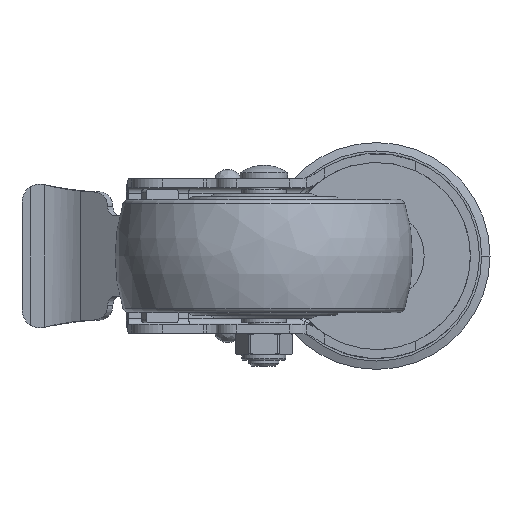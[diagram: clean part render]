
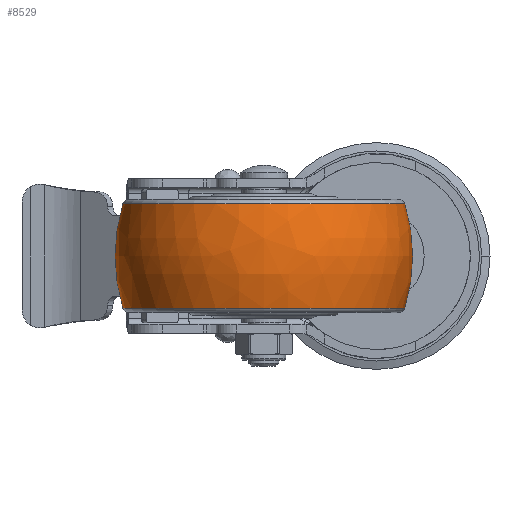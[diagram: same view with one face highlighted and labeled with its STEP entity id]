
A CAD part, front view. The second image highlights one B-rep face of the part: STEP entity #8529.
In plain terms, the highlighted free-form (B-spline) face has degree [3, 3] with [7, 4] control points.
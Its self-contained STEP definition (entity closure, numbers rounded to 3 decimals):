
#7935=CARTESIAN_POINT('',(-24.368,-22.529,0.));
#7936=DIRECTION('',(0.,0.,1.));
#7937=DIRECTION('',(0.293,0.956,0.));
#7938=AXIS2_PLACEMENT_3D('',#7935,#7936,#7937);
#7940=CARTESIAN_POINT('',(-24.368,-2.529,0.));
#7941=DIRECTION('',(0.,0.,-1.));
#7942=DIRECTION('',(0.293,-0.956,0.));
#7943=AXIS2_PLACEMENT_3D('',#7940,#7941,#7942);
#7945=CARTESIAN_POINT('',(-6.782,-12.529,0.));
#7946=DIRECTION('',(-1.,0.,0.));
#7947=DIRECTION('',(0.,1.,0.));
#7948=AXIS2_PLACEMENT_3D('',#7945,#7946,#7947);
#7970=CARTESIAN_POINT('',(-41.954,-12.529,0.));
#7971=DIRECTION('',(-1.,0.,0.));
#7972=DIRECTION('',(0.,1.,0.));
#7973=AXIS2_PLACEMENT_3D('',#7970,#7971,#7972);
#8206=CARTESIAN_POINT('',(-6.782,34.836,0.));
#8208=VERTEX_POINT('',#8206);
#8209=CARTESIAN_POINT('',(-41.954,34.836,0.));
#8210=VERTEX_POINT('',#8209);
#8238=CARTESIAN_POINT('',(-6.782,-59.894,
0.));
#8240=VERTEX_POINT('',#8238);
#8241=CARTESIAN_POINT('',(-41.954,-59.894,
0.));
#8242=VERTEX_POINT('',#8241);
#8491=CARTESIAN_POINT('',(-42.635,-59.587,
2.961));
#8492=CARTESIAN_POINT('',(-30.656,-63.409,
3.201));
#8493=CARTESIAN_POINT('',(-18.08,-63.409,
3.201));
#8494=CARTESIAN_POINT('',(-6.1,-59.587,
2.961));
#8495=CARTESIAN_POINT('',(-42.635,-61.409,
-25.999));
#8496=CARTESIAN_POINT('',(-30.656,-65.379,
-28.11));
#8497=CARTESIAN_POINT('',(-18.08,-65.379,
-28.11));
#8498=CARTESIAN_POINT('',(-6.1,-61.409,
-25.999));
#8499=CARTESIAN_POINT('',(-42.635,-41.546,
-47.152));
#8500=CARTESIAN_POINT('',(-30.656,-43.902,
-50.981));
#8501=CARTESIAN_POINT('',(-18.08,-43.902,
-50.981));
#8502=CARTESIAN_POINT('',(-6.1,-41.546,
-47.152));
#8503=CARTESIAN_POINT('',(-42.635,-12.529,
-47.152));
#8504=CARTESIAN_POINT('',(-30.656,-12.529,
-50.981));
#8505=CARTESIAN_POINT('',(-18.08,-12.529,
-50.981));
#8506=CARTESIAN_POINT('',(-6.1,-12.529,
-47.152));
#8507=CARTESIAN_POINT('',(-42.635,16.488,
-47.152));
#8508=CARTESIAN_POINT('',(-30.656,18.845,
-50.981));
#8509=CARTESIAN_POINT('',(-18.08,18.845,
-50.981));
#8510=CARTESIAN_POINT('',(-6.1,16.488,
-47.152));
#8511=CARTESIAN_POINT('',(-42.635,36.352,
-25.999));
#8512=CARTESIAN_POINT('',(-30.656,40.321,
-28.11));
#8513=CARTESIAN_POINT('',(-18.08,40.321,
-28.11));
#8514=CARTESIAN_POINT('',(-6.1,36.352,
-25.999));
#8515=CARTESIAN_POINT('',(-42.635,34.53,2.961));
#8516=CARTESIAN_POINT('',(-30.656,38.351,3.201));
#8517=CARTESIAN_POINT('',(-18.08,38.351,3.201));
#8518=CARTESIAN_POINT('',(-6.1,34.53,2.961));
#8519=(BOUNDED_SURFACE()B_SPLINE_SURFACE(3,3,((#8491,#8492,#8493,#8494),(#8495,
#8496,#8497,#8498),(#8499,#8500,#8501,#8502),(#8503,#8504,#8505,#8506),(#8507,
#8508,#8509,#8510),(#8511,#8512,#8513,#8514),(#8515,#8516,#8517,#8518)),
.UNSPECIFIED.,.F.,.F.,.F.)B_SPLINE_SURFACE_WITH_KNOTS((4,3,4),(4,4),(0.,1.,
2.),(0.,1.),.UNSPECIFIED.)GEOMETRIC_REPRESENTATION_ITEM()RATIONAL_B_SPLINE_SURFACE(((1.216,1.178,1.178,1.216),(
0.96,0.93,0.93,0.96),(
0.96,0.93,0.93,0.96),(
1.216,1.178,1.178,1.216),(
0.96,0.93,0.93,0.96),(
0.96,0.93,0.93,0.96),(
1.216,1.178,1.178,1.216)))REPRESENTATION_ITEM('')SURFACE());
#8521=ORIENTED_EDGE('',*,*,#8520,.T.);
#8523=ORIENTED_EDGE('',*,*,#8522,.T.);
#8525=ORIENTED_EDGE('',*,*,#8524,.F.);
#8526=ORIENTED_EDGE('',*,*,#8484,.F.);
#8527=EDGE_LOOP('',(#8521,#8523,#8525,#8526));
#8528=FACE_OUTER_BOUND('',#8527,.F.);
#7939=CIRCLE('',#7938,60.);
#7944=CIRCLE('',#7943,60.);
#7949=CIRCLE('',#7948,47.365);
#7974=CIRCLE('',#7973,47.365);
#8484=EDGE_CURVE('',#8208,#8240,#7949,.T.);
#8520=EDGE_CURVE('',#8208,#8210,#7939,.T.);
#8522=EDGE_CURVE('',#8210,#8242,#7974,.T.);
#8524=EDGE_CURVE('',#8240,#8242,#7944,.T.);
#8529=ADVANCED_FACE('',(#8528),#8519,.T.);
